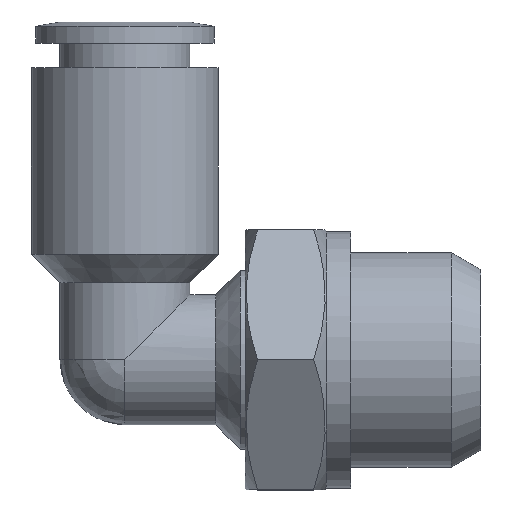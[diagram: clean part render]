
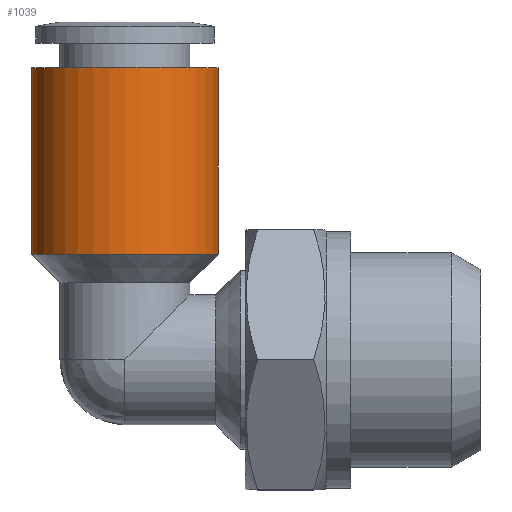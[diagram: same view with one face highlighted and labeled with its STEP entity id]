
A CAD part, top view. The second image highlights one B-rep face of the part: STEP entity #1039.
In plain terms, the highlighted cylindrical face has radius 5.75 mm (diameter 11.5 mm), a full revolution.
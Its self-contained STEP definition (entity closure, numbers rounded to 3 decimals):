
#1005=CARTESIAN_POINT('',(-5.75,6.5,0.0));
#1006=VERTEX_POINT('',#1005);
#1007=CARTESIAN_POINT('',(0.0,6.5,0.0));
#1008=DIRECTION('',(0.0,1.0,0.0));
#1009=DIRECTION('',(-1.0,0.0,0.0));
#1010=AXIS2_PLACEMENT_3D('',#1007,#1008,#1009);
#1011=CIRCLE('',#1010,5.75);
#1012=EDGE_CURVE('',#1006,#1006,#1011,.T.);
#1020=CARTESIAN_POINT('',(0.0,12.25,0.0));
#1021=DIRECTION('',(0.0,1.0,0.0));
#1022=DIRECTION('',(-1.0,0.0,0.0));
#1023=AXIS2_PLACEMENT_3D('',#1020,#1021,#1022);
#1024=CYLINDRICAL_SURFACE('',#1023,5.75);
#1025=CARTESIAN_POINT('',(-5.75,18.0,0.0));
#1026=VERTEX_POINT('',#1025);
#1027=CARTESIAN_POINT('',(0.0,18.0,0.0));
#1028=DIRECTION('',(0.0,1.0,0.0));
#1029=DIRECTION('',(-1.0,0.0,0.0));
#1030=AXIS2_PLACEMENT_3D('',#1027,#1028,#1029);
#1031=CIRCLE('',#1030,5.75);
#1032=EDGE_CURVE('',#1026,#1026,#1031,.T.);
#1033=ORIENTED_EDGE('',*,*,#1032,.F.);
#1034=EDGE_LOOP('',(#1033));
#1035=FACE_OUTER_BOUND('',#1034,.T.);
#1036=ORIENTED_EDGE('',*,*,#1012,.T.);
#1037=EDGE_LOOP('',(#1036));
#1038=FACE_BOUND('',#1037,.T.);
#1039=ADVANCED_FACE('',(#1035,#1038),#1024,.T.);
